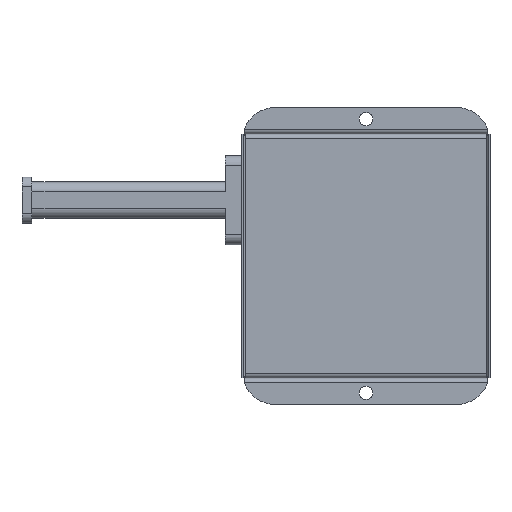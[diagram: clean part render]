
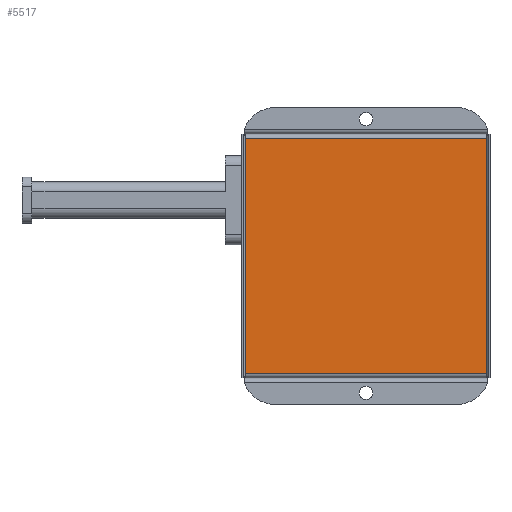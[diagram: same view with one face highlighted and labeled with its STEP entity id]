
A CAD part, top view. The second image highlights one B-rep face of the part: STEP entity #5517.
In plain terms, the highlighted planar face has unit normal (0, 0, 1) as drawn and (0, 0, -1) by its records, which use the part's own axes.
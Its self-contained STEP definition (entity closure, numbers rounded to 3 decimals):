
#1 = EDGE_CURVE ( 'NONE', #4184, #5855, #5381, .T. ) ;
#236 = CARTESIAN_POINT ( 'NONE',  ( -35.563, -36.5, -0.6 ) ) ;
#288 = PLANE ( 'NONE',  #4419 ) ;
#527 = ORIENTED_EDGE ( 'NONE', *, *, #1, .F. ) ;
#735 = CARTESIAN_POINT ( 'NONE',  ( -36.9, -36.5, -0.6 ) ) ;
#745 = CARTESIAN_POINT ( 'NONE',  ( 0., 0., -0.6 ) ) ;
#982 = LINE ( 'NONE', #1246, #4418 ) ;
#1105 = CARTESIAN_POINT ( 'NONE',  ( -36.9, 36.5, -0.6 ) ) ;
#1246 = CARTESIAN_POINT ( 'NONE',  ( -35.563, -36.5, -0.6 ) ) ;
#1660 = DIRECTION ( 'NONE',  ( 1., 0., 0. ) ) ;
#1691 = EDGE_CURVE ( 'NONE', #3563, #5855, #982, .T. ) ;
#1807 = ORIENTED_EDGE ( 'NONE', *, *, #3830, .T. ) ;
#2596 = CARTESIAN_POINT ( 'NONE',  ( 35.563, 36.5, -0.6 ) ) ;
#2695 = LINE ( 'NONE', #735, #4236 ) ;
#2744 = VERTEX_POINT ( 'NONE', #4180 ) ;
#2909 = LINE ( 'NONE', #5119, #5848 ) ;
#2954 = DIRECTION ( 'NONE',  ( -1., 0., 0. ) ) ;
#3243 = VECTOR ( 'NONE', #2954, 1000. ) ;
#3372 = CARTESIAN_POINT ( 'NONE',  ( -35.563, 36.5, -0.6 ) ) ;
#3472 = DIRECTION ( 'NONE',  ( 1., 0., 0. ) ) ;
#3563 = VERTEX_POINT ( 'NONE', #236 ) ;
#3614 = EDGE_CURVE ( 'NONE', #3563, #2744, #2695, .T. ) ;
#3830 = EDGE_CURVE ( 'NONE', #4184, #2744, #2909, .T. ) ;
#4155 = DIRECTION ( 'NONE',  ( 0., -1., 0. ) ) ;
#4180 = CARTESIAN_POINT ( 'NONE',  ( 35.563, -36.5, -0.6 ) ) ;
#4184 = VERTEX_POINT ( 'NONE', #2596 ) ;
#4204 = EDGE_LOOP ( 'NONE', ( #5800, #527, #1807, #5298 ) ) ;
#4236 = VECTOR ( 'NONE', #3472, 1000. ) ;
#4266 = FACE_OUTER_BOUND ( 'NONE', #4204, .T. ) ;
#4418 = VECTOR ( 'NONE', #5933, 1000. ) ;
#4419 = AXIS2_PLACEMENT_3D ( 'NONE', #745, #4480, #1660 ) ;
#4480 = DIRECTION ( 'NONE',  ( 0., 0., 1. ) ) ;
#5119 = CARTESIAN_POINT ( 'NONE',  ( 35.563, 36.5, -0.6 ) ) ;
#5298 = ORIENTED_EDGE ( 'NONE', *, *, #3614, .F. ) ;
#5381 = LINE ( 'NONE', #1105, #3243 ) ;
#5517 = ADVANCED_FACE ( 'NONE', ( #4266 ), #288, .F. ) ;
#5800 = ORIENTED_EDGE ( 'NONE', *, *, #1691, .T. ) ;
#5848 = VECTOR ( 'NONE', #4155, 1000. ) ;
#5855 = VERTEX_POINT ( 'NONE', #3372 ) ;
#5933 = DIRECTION ( 'NONE',  ( 0., 1., 0. ) ) ;
